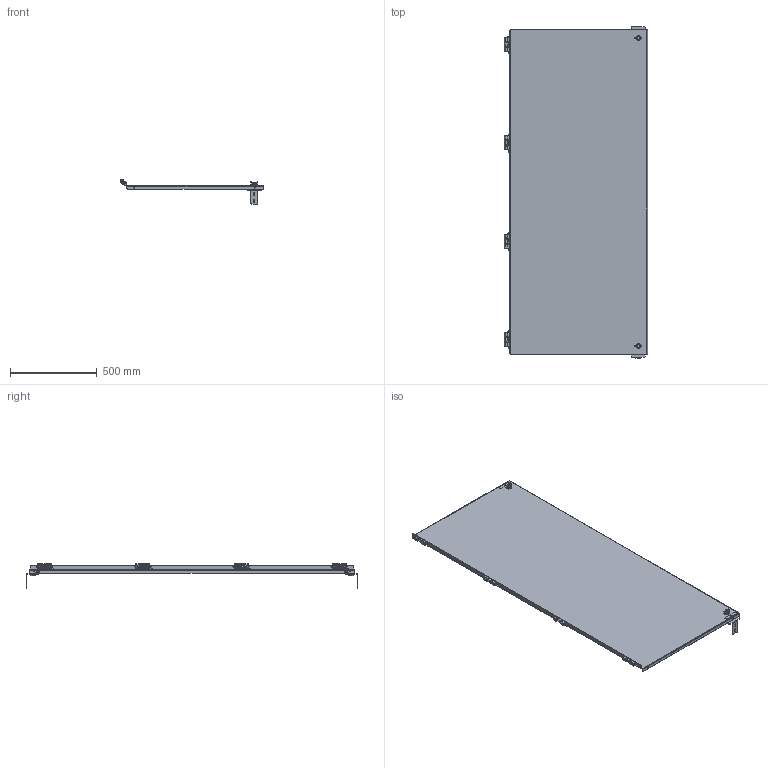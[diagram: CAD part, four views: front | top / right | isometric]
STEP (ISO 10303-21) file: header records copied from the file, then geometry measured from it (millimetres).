
FILE_DESCRIPTION((''),'2;1');
FILE_NAME('SCE-DF2009_ASM','2010-07-08T',('mikek'),(''),'PRO/ENGINEER BY PARAMETRIC TECHNOLOGY CORPORATION, 2009230','PRO/ENGINEER BY PARAMETRIC TECHNOLOGY CORPORATION, 2009230','');
FILE_SCHEMA(('CONFIG_CONTROL_DESIGN'));
Length unit declared in the file: inch
Products named in the file (20): SCE-DF2009-DF-PANEL; 114875; 100022; 114875_ASM; 101369; 101369_PIN; 101369_ASM; 101670; 106491; 101080_SHAFT; 101080_HANDLE; 101080_INSERT; 101080_NUT; 101080_SCREW; 102804_CAM_28MM; 101080_ASM; 102470; 109582; SCE-DF2009-DF-CATCH; SCE-DF2009_ASM
Assembly tree (45 placements, depth 3):
  SCE-DF2009_ASM
    SCE-DF2009-DF-PANEL
    114875_ASM  x4
      114875
      100022
    101369_ASM  x4
      101369
      101369_PIN
    101670  x4
    106491  x8
    101080_ASM  x2
      101080_SHAFT
      101080_HANDLE
      101080_INSERT
      101080_NUT
      101080_SCREW
      102804_CAM_28MM
    102470  x8
    109582
    SCE-DF2009-DF-CATCH  x2
Bounding box: 822.57 x 1908.89 x 138.99 mm (x, y, z)
Volume: 3319398 mm3; surface area: 3323247.4 mm2
Topology: 53 solids, 55 shells, 2424 faces, 6026 edges, 3572 vertices
Faces by surface type: plane 1040, cylinder 774, bspline 264, cone 164, torus 154, sphere 28
Entity records: 30317 total; most frequent: CARTESIAN_POINT 7714, DIRECTION 4308, ORIENTED_EDGE 4110, EDGE_CURVE 2055, AXIS2_PLACEMENT_3D 1610, VERTEX_POINT 1289, VECTOR 1088, LINE 1088
